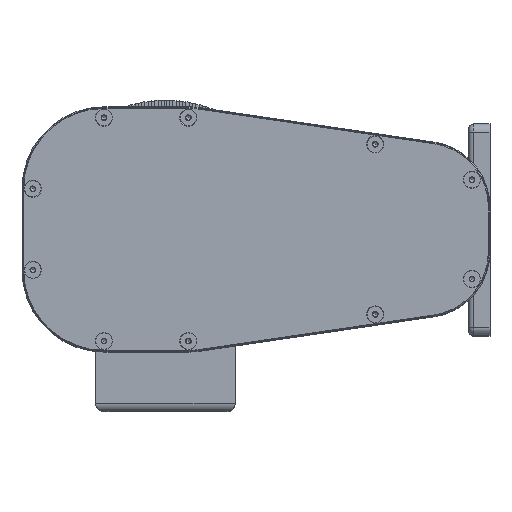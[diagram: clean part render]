
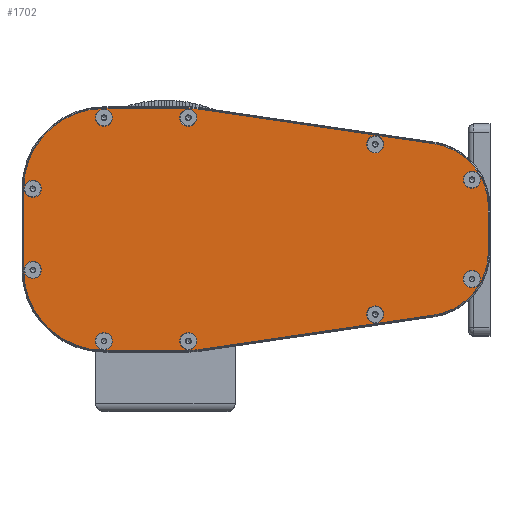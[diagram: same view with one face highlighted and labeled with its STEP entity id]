
A CAD part, top view. The second image highlights one B-rep face of the part: STEP entity #1702.
In plain terms, the highlighted planar face has unit normal (0, 0, 1).
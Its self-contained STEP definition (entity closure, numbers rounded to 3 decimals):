
#1702=ADVANCED_FACE('',(#5143,#5144,#5145,#5146,#5147,#5148,#5149,#5150,#5151,#5152,#5153),#5154,.F.);
#5143=FACE_BOUND('',#9600,.T.);
#5144=FACE_BOUND('',#9601,.T.);
#5145=FACE_BOUND('',#9602,.T.);
#5146=FACE_BOUND('',#9603,.T.);
#5147=FACE_BOUND('',#9604,.T.);
#5148=FACE_BOUND('',#9605,.T.);
#5149=FACE_BOUND('',#9606,.T.);
#5150=FACE_BOUND('',#9607,.T.);
#5151=FACE_BOUND('',#9608,.T.);
#5152=FACE_BOUND('',#9609,.T.);
#5153=FACE_OUTER_BOUND('',#9610,.T.);
#5154=PLANE('',#9611);
#7207=EDGE_CURVE('',#11922,#11922,#11923,.T.);
#7209=EDGE_CURVE('',#11925,#11925,#11926,.T.);
#7211=EDGE_CURVE('',#11928,#11928,#11929,.T.);
#7213=EDGE_CURVE('',#11931,#11931,#11932,.T.);
#7215=EDGE_CURVE('',#11934,#11934,#11935,.T.);
#7217=EDGE_CURVE('',#11937,#11937,#11938,.T.);
#7219=EDGE_CURVE('',#11940,#11940,#11941,.T.);
#7221=EDGE_CURVE('',#11943,#11943,#11944,.T.);
#7223=EDGE_CURVE('',#11946,#11946,#11947,.T.);
#7225=EDGE_CURVE('',#11949,#11949,#11950,.T.);
#9600=EDGE_LOOP('',(#20274));
#9601=EDGE_LOOP('',(#20275));
#9602=EDGE_LOOP('',(#20276));
#9603=EDGE_LOOP('',(#20277));
#9604=EDGE_LOOP('',(#20278));
#9605=EDGE_LOOP('',(#20279));
#9606=EDGE_LOOP('',(#20280));
#9607=EDGE_LOOP('',(#20281));
#9608=EDGE_LOOP('',(#20282));
#9609=EDGE_LOOP('',(#20283));
#9610=EDGE_LOOP('',(#20284,#20285,#20286,#20287,#20288,#20289,#20290,#20291,#20292,#20293,#20294,#20295));
#9611=AXIS2_PLACEMENT_3D('',#20296,#20297,#20298);
#11922=VERTEX_POINT('',#27033);
#11923=CIRCLE('',#27034,5.2);
#11925=VERTEX_POINT('',#27036);
#11926=CIRCLE('',#27037,5.2);
#11928=VERTEX_POINT('',#27039);
#11929=CIRCLE('',#27040,5.2);
#11931=VERTEX_POINT('',#27042);
#11932=CIRCLE('',#27043,5.2);
#11934=VERTEX_POINT('',#27045);
#11935=CIRCLE('',#27046,5.2);
#11937=VERTEX_POINT('',#27048);
#11938=CIRCLE('',#27049,5.2);
#11940=VERTEX_POINT('',#27051);
#11941=CIRCLE('',#27052,5.2);
#11943=VERTEX_POINT('',#27054);
#11944=CIRCLE('',#27055,5.2);
#11946=VERTEX_POINT('',#27057);
#11947=CIRCLE('',#27058,5.2);
#11949=VERTEX_POINT('',#27060);
#11950=CIRCLE('',#27061,5.2);
#20274=ORIENTED_EDGE('',*,*,#7225,.T.);
#20275=ORIENTED_EDGE('',*,*,#7223,.T.);
#20276=ORIENTED_EDGE('',*,*,#7221,.T.);
#20277=ORIENTED_EDGE('',*,*,#7219,.T.);
#20278=ORIENTED_EDGE('',*,*,#7217,.T.);
#20279=ORIENTED_EDGE('',*,*,#7215,.T.);
#20280=ORIENTED_EDGE('',*,*,#7213,.T.);
#20281=ORIENTED_EDGE('',*,*,#7211,.T.);
#20282=ORIENTED_EDGE('',*,*,#7209,.T.);
#20283=ORIENTED_EDGE('',*,*,#7207,.T.);
#20284=ORIENTED_EDGE('',*,*,#29853,.F.);
#20285=ORIENTED_EDGE('',*,*,#29854,.F.);
#20286=ORIENTED_EDGE('',*,*,#29855,.F.);
#20287=ORIENTED_EDGE('',*,*,#29856,.F.);
#20288=ORIENTED_EDGE('',*,*,#29857,.F.);
#20289=ORIENTED_EDGE('',*,*,#29858,.F.);
#20290=ORIENTED_EDGE('',*,*,#29859,.F.);
#20291=ORIENTED_EDGE('',*,*,#29860,.F.);
#20292=ORIENTED_EDGE('',*,*,#29861,.F.);
#20293=ORIENTED_EDGE('',*,*,#29862,.F.);
#20294=ORIENTED_EDGE('',*,*,#29863,.F.);
#20295=ORIENTED_EDGE('',*,*,#29864,.F.);
#20296=CARTESIAN_POINT('',(-98.719,0.,451.6));
#20297=DIRECTION('',(0.0,0.0,-1.0));
#20298=DIRECTION('',(1.0,0.0,0.0));
#27033=CARTESIAN_POINT('',(-190.7,68.15,451.6));
#27034=AXIS2_PLACEMENT_3D('',#32373,#32374,#32375);
#27036=CARTESIAN_POINT('',(-139.2,68.15,451.6));
#27037=AXIS2_PLACEMENT_3D('',#32376,#32377,#32378);
#27039=CARTESIAN_POINT('',(-25.2,51.884,451.6));
#27040=AXIS2_PLACEMENT_3D('',#32379,#32380,#32381);
#27042=CARTESIAN_POINT('',(33.8,30.278,451.6));
#27043=AXIS2_PLACEMENT_3D('',#32382,#32383,#32384);
#27045=CARTESIAN_POINT('',(33.8,-30.278,451.6));
#27046=AXIS2_PLACEMENT_3D('',#32385,#32386,#32387);
#27048=CARTESIAN_POINT('',(-25.2,-51.884,451.6));
#27049=AXIS2_PLACEMENT_3D('',#32388,#32389,#32390);
#27051=CARTESIAN_POINT('',(-139.2,-68.15,451.6));
#27052=AXIS2_PLACEMENT_3D('',#32391,#32392,#32393);
#27054=CARTESIAN_POINT('',(-190.7,-68.15,451.6));
#27055=AXIS2_PLACEMENT_3D('',#32394,#32395,#32396);
#27057=CARTESIAN_POINT('',(-234.1,-24.75,451.6));
#27058=AXIS2_PLACEMENT_3D('',#32397,#32398,#32399);
#27060=CARTESIAN_POINT('',(-234.1,24.75,451.6));
#27061=AXIS2_PLACEMENT_3D('',#32400,#32401,#32402);
#29853=EDGE_CURVE('',#37017,#37018,#37019,.T.);
#29854=EDGE_CURVE('',#37020,#37017,#37021,.T.);
#29855=EDGE_CURVE('',#37022,#37020,#37023,.T.);
#29856=EDGE_CURVE('',#37024,#37022,#37025,.T.);
#29857=EDGE_CURVE('',#37026,#37024,#37027,.T.);
#29858=EDGE_CURVE('',#37028,#37026,#37029,.T.);
#29859=EDGE_CURVE('',#37030,#37028,#37031,.T.);
#29860=EDGE_CURVE('',#37032,#37030,#37033,.T.);
#29861=EDGE_CURVE('',#37034,#37032,#37035,.T.);
#29862=EDGE_CURVE('',#37036,#37034,#37037,.T.);
#29863=EDGE_CURVE('',#37038,#37036,#37039,.T.);
#29864=EDGE_CURVE('',#37018,#37038,#37040,.T.);
#32373=CARTESIAN_POINT('',(-185.5,68.15,451.6));
#32374=DIRECTION('',(0.0,0.0,-1.0));
#32375=DIRECTION('',(-1.0,0.0,0.0));
#32376=CARTESIAN_POINT('',(-134.0,68.15,451.6));
#32377=DIRECTION('',(0.0,0.0,-1.0));
#32378=DIRECTION('',(-1.0,0.0,0.0));
#32379=CARTESIAN_POINT('',(-20.0,51.884,451.6));
#32380=DIRECTION('',(0.0,0.0,-1.0));
#32381=DIRECTION('',(-1.0,0.0,0.0));
#32382=CARTESIAN_POINT('',(39.0,30.278,451.6));
#32383=DIRECTION('',(0.0,0.0,-1.0));
#32384=DIRECTION('',(-1.0,0.0,0.0));
#32385=CARTESIAN_POINT('',(39.0,-30.278,451.6));
#32386=DIRECTION('',(0.0,0.0,-1.0));
#32387=DIRECTION('',(-1.0,0.0,0.0));
#32388=CARTESIAN_POINT('',(-20.0,-51.884,451.6));
#32389=DIRECTION('',(0.0,0.0,-1.0));
#32390=DIRECTION('',(-1.0,0.0,0.0));
#32391=CARTESIAN_POINT('',(-134.0,-68.15,451.6));
#32392=DIRECTION('',(0.0,0.0,-1.0));
#32393=DIRECTION('',(-1.0,0.0,0.0));
#32394=CARTESIAN_POINT('',(-185.5,-68.15,451.6));
#32395=DIRECTION('',(0.0,0.0,-1.0));
#32396=DIRECTION('',(-1.0,0.0,0.0));
#32397=CARTESIAN_POINT('',(-228.9,-24.75,451.6));
#32398=DIRECTION('',(0.0,0.0,-1.0));
#32399=DIRECTION('',(-1.0,0.0,0.0));
#32400=CARTESIAN_POINT('',(-228.9,24.75,451.6));
#32401=DIRECTION('',(0.0,0.0,-1.0));
#32402=DIRECTION('',(-1.0,0.0,0.0));
#37017=VERTEX_POINT('',#48409);
#37018=VERTEX_POINT('',#48410);
#37019=LINE('',#48411,#48412);
#37020=VERTEX_POINT('',#48413);
#37021=CIRCLE('',#48414,49.0);
#37022=VERTEX_POINT('',#48415);
#37023=LINE('',#48416,#48417);
#37024=VERTEX_POINT('',#48418);
#37025=CIRCLE('',#48419,49.0);
#37026=VERTEX_POINT('',#48420);
#37027=LINE('',#48421,#48422);
#37028=VERTEX_POINT('',#48423);
#37029=CIRCLE('',#48424,39.0);
#37030=VERTEX_POINT('',#48425);
#37031=LINE('',#48426,#48427);
#37032=VERTEX_POINT('',#48428);
#37033=CIRCLE('',#48429,39.0);
#37034=VERTEX_POINT('',#48430);
#37035=LINE('',#48431,#48432);
#37036=VERTEX_POINT('',#48433);
#37037=CIRCLE('',#48434,49.0);
#37038=VERTEX_POINT('',#48435);
#37039=LINE('',#48436,#48437);
#37040=CIRCLE('',#48438,49.0);
#48409=CARTESIAN_POINT('',(-234.5,-24.75,451.6));
#48410=CARTESIAN_POINT('',(-234.5,24.75,451.6));
#48411=CARTESIAN_POINT('',(-234.5,0.,451.6));
#48412=VECTOR('',#58518,1.0);
#48413=CARTESIAN_POINT('',(-185.5,-73.75,451.6));
#48414=AXIS2_PLACEMENT_3D('',#58519,#58520,#58521);
#48415=CARTESIAN_POINT('',(-133.661,-73.75,451.6));
#48416=CARTESIAN_POINT('',(-129.15,-73.75,451.6));
#48417=VECTOR('',#58522,1.0);
#48418=CARTESIAN_POINT('',(-126.524,-73.227,451.6));
#48419=AXIS2_PLACEMENT_3D('',#58523,#58524,#58525);
#48420=CARTESIAN_POINT('',(15.68,-52.292,451.6));
#48421=CARTESIAN_POINT('',(-72.089,-65.213,451.6));
#48422=VECTOR('',#58526,1.);
#48423=CARTESIAN_POINT('',(49.0,-13.708,451.6));
#48424=AXIS2_PLACEMENT_3D('',#58527,#58528,#58529);
#48425=CARTESIAN_POINT('',(49.0,13.708,451.6));
#48426=CARTESIAN_POINT('',(49.0,0.,451.6));
#48427=VECTOR('',#58530,1.0);
#48428=CARTESIAN_POINT('',(15.68,52.292,451.6));
#48429=AXIS2_PLACEMENT_3D('',#58531,#58532,#58533);
#48430=CARTESIAN_POINT('',(-126.524,73.227,451.6));
#48431=CARTESIAN_POINT('',(-72.089,65.213,451.6));
#48432=VECTOR('',#58534,1.);
#48433=CARTESIAN_POINT('',(-133.661,73.75,451.6));
#48434=AXIS2_PLACEMENT_3D('',#58535,#58536,#58537);
#48435=CARTESIAN_POINT('',(-185.5,73.75,451.6));
#48436=CARTESIAN_POINT('',(-129.15,73.75,451.6));
#48437=VECTOR('',#58538,1.0);
#48438=AXIS2_PLACEMENT_3D('',#58539,#58540,#58541);
#58518=DIRECTION('',(0.0,1.0,0.0));
#58519=CARTESIAN_POINT('',(-185.5,-24.75,451.6));
#58520=DIRECTION('',(-0.0,0.0,-1.0));
#58521=DIRECTION('',(-0.707,-0.707,0.0));
#58522=DIRECTION('',(-1.0,0.0,0.0));
#58523=CARTESIAN_POINT('',(-133.661,-24.75,451.6));
#58524=DIRECTION('',(0.0,0.0,-1.0));
#58525=DIRECTION('',(0.073,-0.997,0.0));
#58526=DIRECTION('',(-0.989,-0.146,0.0));
#58527=CARTESIAN_POINT('',(10.0,-13.708,451.6));
#58528=DIRECTION('',(0.0,0.0,-1.0));
#58529=DIRECTION('',(0.757,-0.654,0.0));
#58530=DIRECTION('',(0.0,-1.0,0.0));
#58531=CARTESIAN_POINT('',(10.0,13.708,451.6));
#58532=DIRECTION('',(0.0,0.0,-1.0));
#58533=DIRECTION('',(0.757,0.654,0.0));
#58534=DIRECTION('',(0.989,-0.146,0.0));
#58535=CARTESIAN_POINT('',(-133.661,24.75,451.6));
#58536=DIRECTION('',(0.0,0.0,-1.0));
#58537=DIRECTION('',(0.073,0.997,0.0));
#58538=DIRECTION('',(1.0,0.0,0.0));
#58539=CARTESIAN_POINT('',(-185.5,24.75,451.6));
#58540=DIRECTION('',(0.0,0.0,-1.0));
#58541=DIRECTION('',(-0.707,0.707,0.0));
